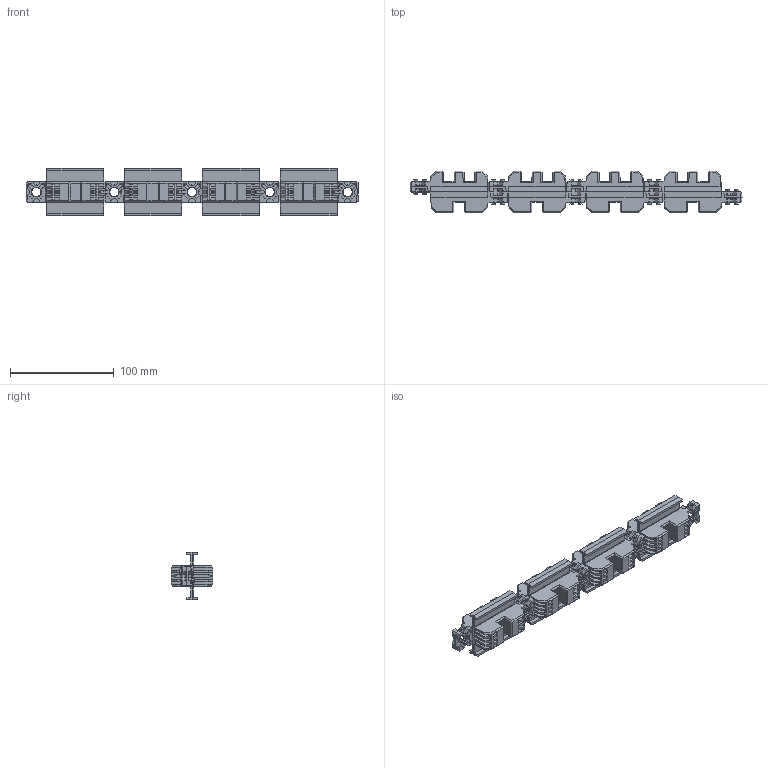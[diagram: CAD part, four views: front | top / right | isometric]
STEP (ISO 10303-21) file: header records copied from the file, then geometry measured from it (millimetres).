
FILE_DESCRIPTION(('CAx-IF Rec.Pracs.---Model Styling and Organization---1.2---2011-12-15','CAx-IF Rec.Pracs.---Geometric and Assembly Validation Properties---4.1---2014-06-16','CAx-IF Rec.Pracs.---PMI Polyline Presentation---2.0---2013-05-24'),'2;1');
FILE_NAME('R5BBMS12104P.stp','2021-05-06T03:19:09+03:00',(''),(''),'STEP Interface 4.4 by CT CoreTechnologie','3D_Evolution4.4 by CT CoreTechnologie','');
FILE_SCHEMA(('AUTOMOTIVE_DESIGN { 1 0 10303 214 1 1 1 1 }'));
Length unit declared in the file: millimetre
Products named in the file (2): R5BBMS12104P; RB.1306.00.00.0
Assembly tree (4 placements, depth 2):
  R5BBMS12104P
    RB.1306.00.00.0  x4
Bounding box: 319.83 x 40 x 45.91 mm (x, y, z)
Surface area: 91410.8 mm2 (no closed solid volume)
Topology: 0 solids, 4 shells, 3064 faces, 8304 edges, 5280 vertices
Faces by surface type: plane 1728, bspline 1044, cylinder 292
Entity records: 36696 total; most frequent: CARTESIAN_POINT 17718, ORIENTED_EDGE 4152, DIRECTION 3783, EDGE_CURVE 2076, VECTOR 1357, LINE 1357, VERTEX_POINT 1320, AXIS2_PLACEMENT_3D 1213
